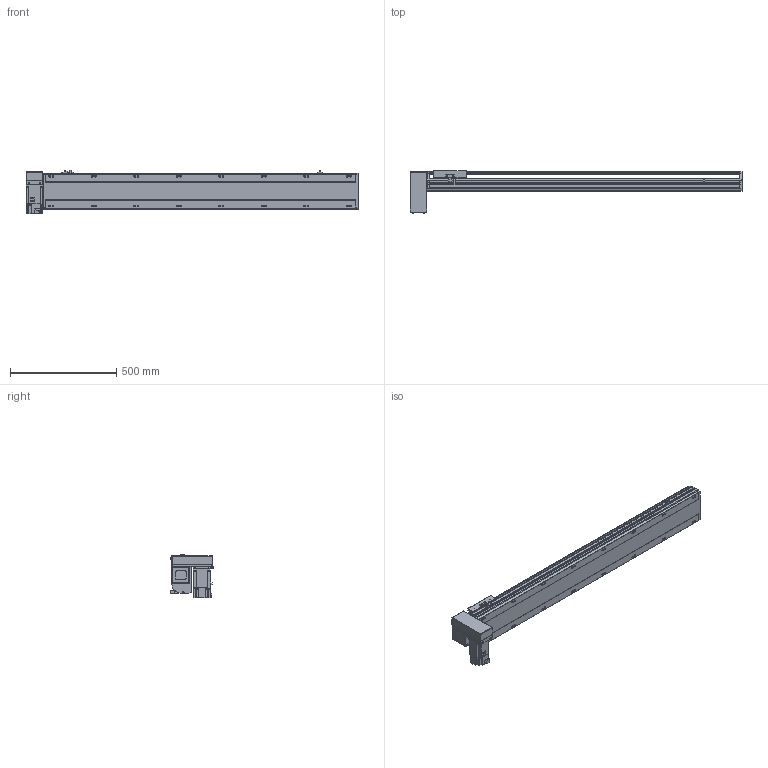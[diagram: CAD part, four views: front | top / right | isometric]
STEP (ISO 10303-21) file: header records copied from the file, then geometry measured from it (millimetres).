
FILE_DESCRIPTION(/* description */ ('STEP AP214'),/* implementation_level */ '2;1');
FILE_NAME(/* name */ 'PBS170-P40-S1200-RD-T75-C1-N(0)',/* time_stamp */ '2022-06-08T07:35:48+02:00',/* author */ ('License CC BY-ND 4.0'),/* organization */ ('CADENAS'),/* preprocessor_version */ 'ST-DEVELOPER v18.102',/* originating_system */ 'PARTsolutions',/* authorisation */ ' ');
FILE_SCHEMA (('AUTOMOTIVE_DESIGN {1 0 10303 214 3 1 1}'));
Length unit declared in the file: millimetre
Products named in the file (7): PBS170-P40-S1200-RD-T75-C1-N(0); PBS170_sensor; PBS170_plant; PBS170_sliser; T75-p1; PBS170T-RD_motors; PBS170-S1200()_body
Assembly tree (8 placements, depth 2):
  PBS170-P40-S1200-RD-T75-C1-N(0)
    PBS170_sensor  x3
    PBS170_plant
    PBS170_sliser
    T75-p1
    PBS170T-RD_motors
    PBS170-S1200()_body
Bounding box: 1563 x 201 x 205.3 mm (x, y, z)
Volume: 12417725.1 mm3; surface area: 1611227.9 mm2
Topology: 8 solids, 8 shells, 1082 faces, 2875 edges, 1874 vertices
Faces by surface type: plane 687, cylinder 339, cone 46, sphere 8, torus 2
Full cylindrical faces by diameter (mm): 3.242 x4, 4 x2, 4.4 x4, 4.5 x6, 4.917 x4, 6 x9, 6.647 x24, 7 x2, 7.5 x4, 8 x8, 8.5 x16, 10 x4, 10.5 x16, 11 x2, 30 x2, 40 x1, 70 x1
Entity records: 31118 total; most frequent: CARTESIAN_POINT 5713, DIRECTION 5300, ORIENTED_EDGE 5028, EDGE_CURVE 2514, AXIS2_PLACEMENT_3D 1837, VERTEX_POINT 1730, LINE 1626, VECTOR 1626
